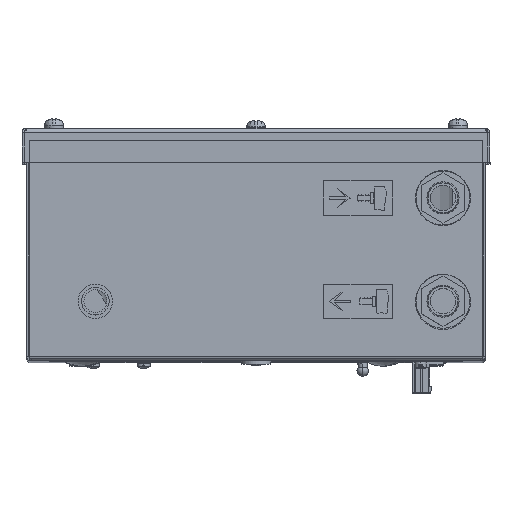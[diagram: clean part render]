
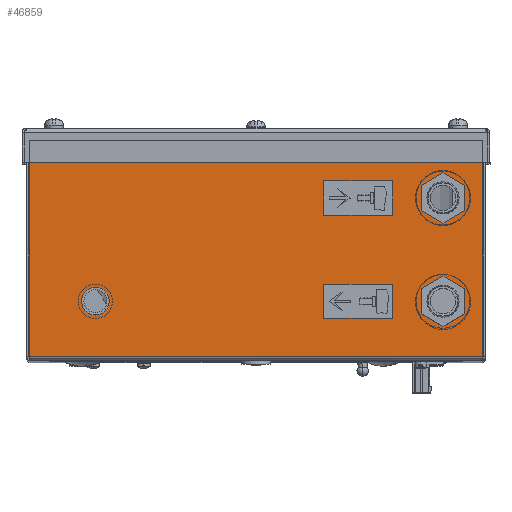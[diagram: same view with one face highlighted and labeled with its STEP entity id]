
A CAD part, top view. The second image highlights one B-rep face of the part: STEP entity #46859.
In plain terms, the highlighted planar face has unit normal (0, 0, 1).
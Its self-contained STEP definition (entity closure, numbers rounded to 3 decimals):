
#647 = AXIS2_PLACEMENT_3D ( 'NONE', #13630, #45601, #23322 ) ;
#926 = PLANE ( 'NONE',  #55366 ) ;
#1348 = VERTEX_POINT ( 'NONE', #23565 ) ;
#1443 = EDGE_CURVE ( 'NONE', #44068, #2637, #10451, .T. ) ;
#1764 = CARTESIAN_POINT ( 'NONE',  ( 81.5, 71., 500. ) ) ;
#2488 = CARTESIAN_POINT ( 'NONE',  ( 2600., 2., 500. ) ) ;
#2637 = VERTEX_POINT ( 'NONE', #42535 ) ;
#2755 = AXIS2_PLACEMENT_3D ( 'NONE', #15275, #48593, #20072 ) ;
#2936 = EDGE_CURVE ( 'NONE', #33817, #53258, #22733, .T. ) ;
#4286 = ORIENTED_EDGE ( 'NONE', *, *, #55385, .F. ) ;
#5817 = AXIS2_PLACEMENT_3D ( 'NONE', #25249, #48406, #19287 ) ;
#5988 = CARTESIAN_POINT ( 'NONE',  ( 2600., 96., 500. ) ) ;
#6590 = DIRECTION ( 'NONE',  ( -1., 0., 0. ) ) ;
#7109 = CARTESIAN_POINT ( 'NONE',  ( 98.823, 2., 500. ) ) ;
#7720 = ORIENTED_EDGE ( 'NONE', *, *, #9943, .F. ) ;
#8920 = CARTESIAN_POINT ( 'NONE',  ( 72.75, 26., 500. ) ) ;
#9943 = EDGE_CURVE ( 'NONE', #50790, #52015, #43027, .T. ) ;
#10451 = LINE ( 'NONE', #25661, #52178 ) ;
#10780 = DIRECTION ( 'NONE',  ( 0., 1., 0. ) ) ;
#10869 = CARTESIAN_POINT ( 'NONE',  ( 2600., 96., 500. ) ) ;
#11221 = FACE_BOUND ( 'NONE', #25174, .T. ) ;
#13630 = CARTESIAN_POINT ( 'NONE',  ( 81.5, 71., 500. ) ) ;
#13751 = ORIENTED_EDGE ( 'NONE', *, *, #39880, .T. ) ;
#14882 = CIRCLE ( 'NONE', #19455, 8.75 ) ;
#15243 = ORIENTED_EDGE ( 'NONE', *, *, #22757, .F. ) ;
#15275 = CARTESIAN_POINT ( 'NONE',  ( -70., 26., 500. ) ) ;
#15843 = ORIENTED_EDGE ( 'NONE', *, *, #1443, .F. ) ;
#17591 = CIRCLE ( 'NONE', #45406, 6. ) ;
#18516 = ORIENTED_EDGE ( 'NONE', *, *, #28131, .F. ) ;
#19287 = DIRECTION ( 'NONE',  ( -1., 0., 0. ) ) ;
#19455 = AXIS2_PLACEMENT_3D ( 'NONE', #1764, #35086, #6590 ) ;
#19631 = EDGE_LOOP ( 'NONE', ( #7720, #49152 ) ) ;
#19852 = VECTOR ( 'NONE', #49201, 1000. ) ;
#20072 = DIRECTION ( 'NONE',  ( -1., 0., 0. ) ) ;
#21183 = VECTOR ( 'NONE', #21725, 1000. ) ;
#21244 = EDGE_CURVE ( 'NONE', #57526, #45688, #37607, .T. ) ;
#21725 = DIRECTION ( 'NONE',  ( -1., 0., 0. ) ) ;
#22733 = LINE ( 'NONE', #58829, #44315 ) ;
#22757 = EDGE_CURVE ( 'NONE', #45688, #57526, #33081, .T. ) ;
#23322 = DIRECTION ( 'NONE',  ( -1., 0., 0. ) ) ;
#23410 = DIRECTION ( 'NONE',  ( 0., 1., 0. ) ) ;
#23565 = CARTESIAN_POINT ( 'NONE',  ( -64., 26., 500. ) ) ;
#23892 = FACE_BOUND ( 'NONE', #19631, .T. ) ;
#25174 = EDGE_LOOP ( 'NONE', ( #18516, #28366 ) ) ;
#25249 = CARTESIAN_POINT ( 'NONE',  ( 81.5, 26., 500. ) ) ;
#25552 = CARTESIAN_POINT ( 'NONE',  ( 81.5, 26., 500. ) ) ;
#25661 = CARTESIAN_POINT ( 'NONE',  ( -98.823, 96., 500. ) ) ;
#26991 = EDGE_LOOP ( 'NONE', ( #15843, #4286, #28582, #13751 ) ) ;
#27268 = CIRCLE ( 'NONE', #2755, 6. ) ;
#28131 = EDGE_CURVE ( 'NONE', #30686, #1348, #17591, .T. ) ;
#28366 = ORIENTED_EDGE ( 'NONE', *, *, #39847, .F. ) ;
#28582 = ORIENTED_EDGE ( 'NONE', *, *, #2936, .F. ) ;
#28997 = CARTESIAN_POINT ( 'NONE',  ( 98.823, 96., 500. ) ) ;
#30686 = VERTEX_POINT ( 'NONE', #61486 ) ;
#32005 = ORIENTED_EDGE ( 'NONE', *, *, #21244, .F. ) ;
#32464 = LINE ( 'NONE', #10869, #19852 ) ;
#33081 = CIRCLE ( 'NONE', #5817, 8.75 ) ;
#33817 = VERTEX_POINT ( 'NONE', #28997 ) ;
#35086 = DIRECTION ( 'NONE',  ( 0., 0., 1. ) ) ;
#36495 = FACE_OUTER_BOUND ( 'NONE', #26991, .T. ) ;
#37607 = CIRCLE ( 'NONE', #53033, 8.75 ) ;
#37920 = EDGE_CURVE ( 'NONE', #52015, #50790, #14882, .T. ) ;
#39286 = DIRECTION ( 'NONE',  ( 0., 0., -1. ) ) ;
#39847 = EDGE_CURVE ( 'NONE', #1348, #30686, #27268, .T. ) ;
#39880 = EDGE_CURVE ( 'NONE', #33817, #2637, #32464, .T. ) ;
#41031 = DIRECTION ( 'NONE',  ( 0., 0., 1. ) ) ;
#42535 = CARTESIAN_POINT ( 'NONE',  ( -98.823, 96., 500. ) ) ;
#43027 = CIRCLE ( 'NONE', #647, 8.75 ) ;
#44068 = VERTEX_POINT ( 'NONE', #55830 ) ;
#44315 = VECTOR ( 'NONE', #57781, 1000. ) ;
#45406 = AXIS2_PLACEMENT_3D ( 'NONE', #46650, #50679, #49082 ) ;
#45601 = DIRECTION ( 'NONE',  ( 0., 0., 1. ) ) ;
#45688 = VERTEX_POINT ( 'NONE', #50344 ) ;
#46650 = CARTESIAN_POINT ( 'NONE',  ( -70., 26., 500. ) ) ;
#46859 = ADVANCED_FACE ( 'NONE', ( #11221, #23892, #49252, #36495 ), #926, .F. ) ;
#47406 = EDGE_LOOP ( 'NONE', ( #32005, #15243 ) ) ;
#47698 = DIRECTION ( 'NONE',  ( -1., 0., 0. ) ) ;
#48008 = LINE ( 'NONE', #2488, #21183 ) ;
#48406 = DIRECTION ( 'NONE',  ( 0., 0., 1. ) ) ;
#48593 = DIRECTION ( 'NONE',  ( 0., 0., 1. ) ) ;
#49082 = DIRECTION ( 'NONE',  ( -1., 0., 0. ) ) ;
#49152 = ORIENTED_EDGE ( 'NONE', *, *, #37920, .F. ) ;
#49201 = DIRECTION ( 'NONE',  ( -1., 0., 0. ) ) ;
#49252 = FACE_BOUND ( 'NONE', #47406, .T. ) ;
#50344 = CARTESIAN_POINT ( 'NONE',  ( 90.25, 26., 500. ) ) ;
#50679 = DIRECTION ( 'NONE',  ( 0., 0., 1. ) ) ;
#50790 = VERTEX_POINT ( 'NONE', #58380 ) ;
#52015 = VERTEX_POINT ( 'NONE', #56064 ) ;
#52178 = VECTOR ( 'NONE', #23410, 1000. ) ;
#53033 = AXIS2_PLACEMENT_3D ( 'NONE', #25552, #41031, #47698 ) ;
#53258 = VERTEX_POINT ( 'NONE', #7109 ) ;
#55366 = AXIS2_PLACEMENT_3D ( 'NONE', #5988, #39286, #10780 ) ;
#55385 = EDGE_CURVE ( 'NONE', #53258, #44068, #48008, .T. ) ;
#55830 = CARTESIAN_POINT ( 'NONE',  ( -98.823, 2., 500. ) ) ;
#56064 = CARTESIAN_POINT ( 'NONE',  ( 90.25, 71., 500. ) ) ;
#57526 = VERTEX_POINT ( 'NONE', #8920 ) ;
#57781 = DIRECTION ( 'NONE',  ( 0., -1., 0. ) ) ;
#58380 = CARTESIAN_POINT ( 'NONE',  ( 72.75, 71., 500. ) ) ;
#58829 = CARTESIAN_POINT ( 'NONE',  ( 98.823, 96., 500. ) ) ;
#61486 = CARTESIAN_POINT ( 'NONE',  ( -76., 26., 500. ) ) ;
